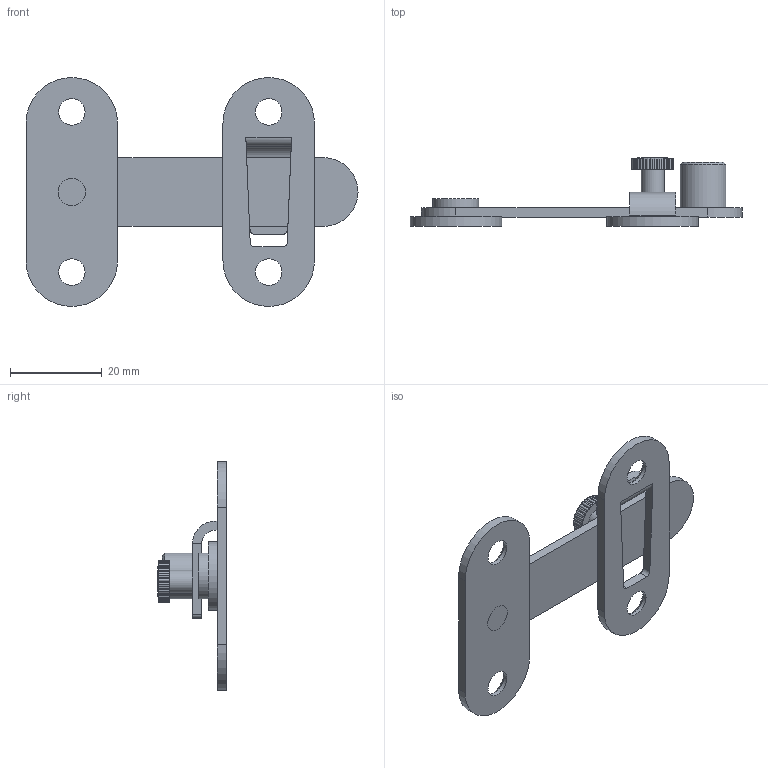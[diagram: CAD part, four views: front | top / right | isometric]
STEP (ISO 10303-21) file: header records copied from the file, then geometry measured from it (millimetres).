
FILE_DESCRIPTION(/* description */ (''),/* implementation_level */ '2;1');
FILE_NAME(/* name */ '\\Nas\db20\GS2-2\DR_GS2-2.stp',/* time_stamp */ '2021-03-03T16:03:17+09:00',/* author */ ('user'),/* organization */ (''),/* preprocessor_version */ 'ST-DEVELOPER v15.6',/* originating_system */ 'Autodesk Inventor 2015',/* authorisation */ '');
FILE_SCHEMA (('AUTOMOTIVE_DESIGN { 1 0 10303 214 3 1 1 }'));
Length unit declared in the file: millimetre
Products named in the file (6): DR_GS2-2-P1-1; DR_GS2-2-P1-2; DR_GS2-2-P1-3; DR_GS2-2-P2; DR_GS2-2-볼트; DR_GS2-2
Bounding box: 72.5 x 15 x 50 mm (x, y, z)
Volume: 6700.6 mm3; surface area: 7525.5 mm2
Topology: 5 solids, 5 shells, 132 faces, 349 edges, 231 vertices
Faces by surface type: cylinder 95, plane 32, cone 5
Full cylindrical faces by diameter (mm): 4 x1, 5 x1, 5.8 x4, 6 x3, 6.5 x1, 10 x2
Entity records: 4252 total; most frequent: DIRECTION 807, CARTESIAN_POINT 694, ORIENTED_EDGE 652, AXIS2_PLACEMENT_3D 338, EDGE_CURVE 326, VERTEX_POINT 225, CIRCLE 193, EDGE_LOOP 169
